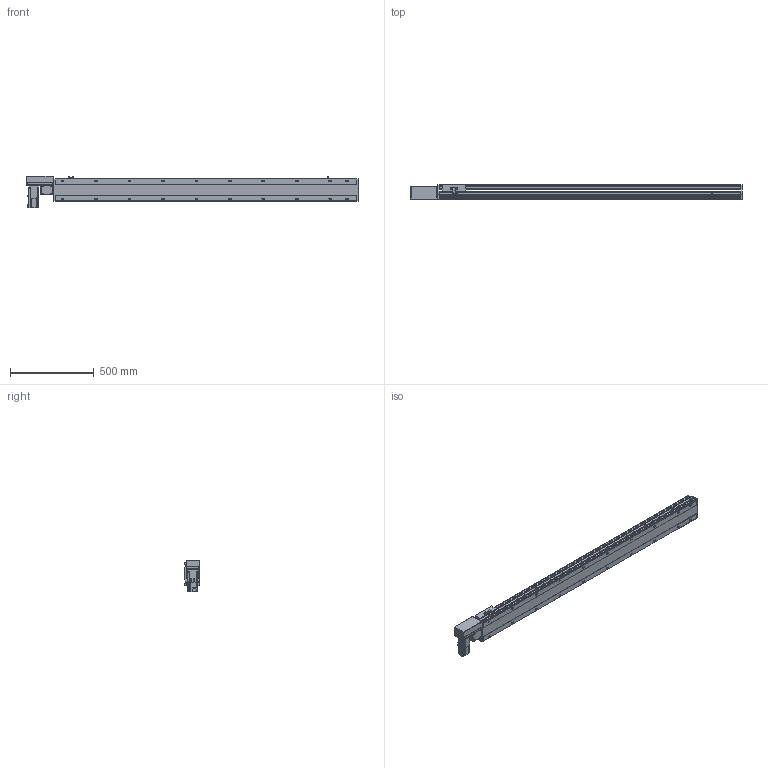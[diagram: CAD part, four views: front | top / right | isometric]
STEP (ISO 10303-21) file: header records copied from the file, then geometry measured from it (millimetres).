
FILE_DESCRIPTION( ( 'STEP AP214' ), '1' );
FILE_NAME( 'x:/temp/worker_6/temp/exporttempdir_5396_64_U1rQz/format_0/PBS140S-P40-S1550-R-T40-C1-N(0).stp', '2022-06-09T00:17:54', ( 'License CC BY-ND 4.0' ), ( 'CADENAS' ), ' ', 'PARTsolutions', ' ' );
FILE_SCHEMA( ( 'AUTOMOTIVE_DESIGN { 1 0 10303 214 1 1 1 1 }' ) );
Length unit declared in the file: millimetre
Products named in the file (7): PBS140S-P40-S1550-R-T40-C1-N(0); _PBS140S-S1550()_body; _PBS140ST-R_motors; _T40-p1; _PBS140S_sliser; _PBS140S_plant; _PBS140S_sensor
Assembly tree (8 placements, depth 2):
  PBS140S-P40-S1550-R-T40-C1-N(0)
    _PBS140S-S1550()_body
    _PBS140ST-R_motors
    _T40-p1
    _PBS140S_sliser
    _PBS140S_plant
    _PBS140S_sensor  x3
Bounding box: 1983 x 93 x 189.7 mm (x, y, z)
Volume: 9543415.4 mm3; surface area: 1629178.2 mm2
Topology: 8 solids, 8 shells, 1131 faces, 2991 edges, 1957 vertices
Faces by surface type: plane 714, cylinder 361, cone 46, sphere 8, torus 2
Full cylindrical faces by diameter (mm): 3.242 x4, 4 x2, 4.134 x4, 4.4 x8, 4.5 x2, 4.8 x4, 4.917 x28, 5.5 x7, 6 x2, 7 x22, 7.5 x8, 8 x12, 8.5 x4, 10.5 x20, 14 x1, 30 x2, 50 x2
Entity records: 41620 total; most frequent: CARTESIAN_POINT 6742, DIRECTION 5488, ORIENTED_EDGE 5182, EDGE_CURVE 2591, AXIS2_PLACEMENT_3D 1919, VERTEX_POINT 1801, LINE 1650, VECTOR 1650
